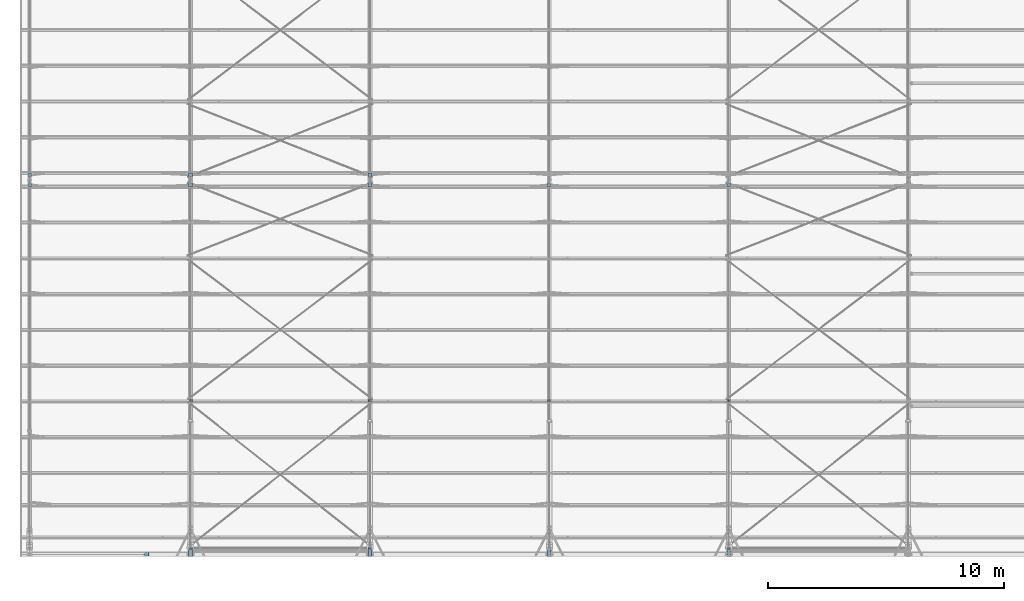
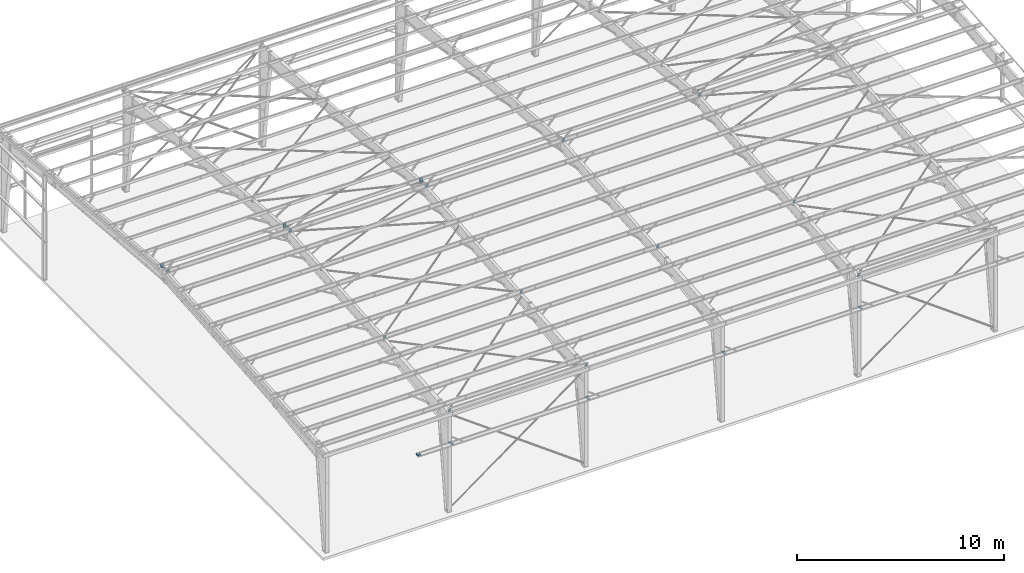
# One storey, part 182 of 185: 20 beams, 20 elements without a shape of their own.
"""IFC2X3 building model written with IfcOpenShell, lengths in millimetres."""

from ifc_helpers import new_model, si_unit, frame, origin_with_axes, place, context, subcontext, project, spatial, faceted_brep, material, type_object, element, aggregate, save


model = new_model("IFC2X3")

# Units and contexts
model_context = context("Model", 3, precision=1e-05, world=origin_with_axes())
body_context = subcontext(model_context, "Body", "Model", "MODEL_VIEW")
ifc_project = project(units=[si_unit("LENGTHUNIT", "METRE", prefix="MILLI"), si_unit("AREAUNIT", "SQUARE_METRE"), si_unit("VOLUMEUNIT", "CUBIC_METRE"), si_unit("MASSUNIT", "GRAM", prefix="KILO"), si_unit("TIMEUNIT", "SECOND"), si_unit("PLANEANGLEUNIT", "RADIAN"), si_unit("SOLIDANGLEUNIT", "STERADIAN"), si_unit("THERMODYNAMICTEMPERATUREUNIT", "DEGREE_CELSIUS"), si_unit("LUMINOUSINTENSITYUNIT", "LUMEN")], contexts=[model_context])

# Site, building, storey
site_placement = place(None, origin_with_axes())
site = spatial("IfcSite", under=ifc_project, at=site_placement, Name="Undefined", CompositionType="ELEMENT")
building_placement = place(site_placement, origin_with_axes())
building = spatial("IfcBuilding", under=site, at=building_placement, Name="Undefined", CompositionType="ELEMENT")
storey_placement = place(building_placement, origin_with_axes())
storey = spatial("IfcBuildingStorey", under=building, at=storey_placement, Name="Undefined", CompositionType="ELEMENT", Elevation=0.0)

# Assembly, beam
assembly_1_placement = place(storey_placement, origin_with_axes())
assembly_1 = element("IfcElementAssembly", 1, at=assembly_1_placement, inside=storey, Name="Steel Assembly", AssemblyPlace="NOTDEFINED", PredefinedType="RIGID_FRAME")
ifc_material = material(Name="STEEL/55")
beam_type_1 = type_object("IfcBeamType", Name="PL1/8\"X5 7/8\"", PredefinedType="NOTDEFINED")
beam_1_placement = place(assembly_1_placement, frame((5470.53000030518, 101.6, 4168.77750003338), z_axis=(0.0, -1.0, 0.0), x_axis=(-1.0, 0.0, 0.0)))
beam_1 = element("IfcBeam", 2, at=beam_1_placement, type_object=beam_type_1, material=ifc_material, Name="UNIVERSAL AC-1 CLIP", ObjectType="PL1/8\"X5 7/8\"", context=body_context, shape_type="Brep", body=[
    faceted_brep([(0.0, -1.58749999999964, -74.6125), (0.0, -1.58749999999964, 74.6125), (0.0, 1.58749999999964, 74.6125), (0.0, 1.58749999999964, -74.6125), (184.149993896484, 1.58749999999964, 74.6125), (184.149993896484, 1.58749999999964, -74.6125), (180.974993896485, -1.58749999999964, -74.6125), (180.974993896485, -1.58749999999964, 74.6125), (184.149993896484, -74.6124969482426, 74.6125), (184.149993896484, -74.6124969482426, -74.6125), (180.974993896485, -74.6124969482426, 74.6125), (180.974993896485, -74.6124969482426, -74.6125)], [[[0, 1, 2, 3]], [[3, 2, 4, 5]], [[1, 0, 6, 7]], [[5, 4, 8, 9]], [[4, 2, 1, 7, 10, 8]], [[7, 6, 11, 10]], [[6, 0, 3, 5, 9, 11]], [[10, 11, 9, 8]]]),
])
aggregate(assembly_1, [beam_1])

assembly_2_placement = place(storey_placement, origin_with_axes())
assembly_2 = element("IfcElementAssembly", 3, at=assembly_2_placement, inside=storey, Name="Steel Assembly", AssemblyPlace="NOTDEFINED", PredefinedType="RIGID_FRAME")
beam_type_2 = type_object("IfcBeamType", Name="FL3/16\"X5\"", PredefinedType="NOTDEFINED")
beam_2_placement = place(assembly_2_placement, frame((30099.0000000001, 6672.1247784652, 6450.49431404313), z_axis=(1.0, 0.0, 0.0), x_axis=(0.0, -0.996545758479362, -0.0830454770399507)))
beam_2 = element("IfcBeam", 4, at=beam_2_placement, type_object=beam_type_2, material=ifc_material, Name="UNIVERSAL AC-1 CLIP", ObjectType="FL3/16\"X5\"", context=body_context, shape_type="Brep", body=[
    faceted_brep([(1.03973434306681e-08, -2.3799999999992, -63.5), (1.03973434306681e-08, -2.3799999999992, 63.5), (-1.0393705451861e-08, 2.38000000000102, 63.5), (-1.0393705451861e-08, 2.38000000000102, -63.5), (69.8499976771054, 2.38000030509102, 63.5), (69.8499976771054, 2.38000030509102, -63.5), (65.0899976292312, -2.37999971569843, -63.5), (65.0899976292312, -2.37999971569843, 63.5), (69.8499958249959, -181.770005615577, 63.5), (69.8499958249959, -181.770005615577, -63.5), (65.0899958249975, -181.770005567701, 63.5), (65.0899958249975, -181.770005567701, -63.5)], [[[0, 1, 2, 3]], [[3, 2, 4, 5]], [[1, 0, 6, 7]], [[5, 4, 8, 9]], [[4, 2, 1, 7, 10, 8]], [[7, 6, 11, 10]], [[6, 0, 3, 5, 9, 11]], [[10, 11, 9, 8]]]),
])
aggregate(assembly_2, [beam_2])

assembly_3_placement = place(storey_placement, origin_with_axes())
assembly_3 = element("IfcElementAssembly", 5, at=assembly_3_placement, inside=storey, Name="Steel Assembly", AssemblyPlace="NOTDEFINED", PredefinedType="RIGID_FRAME")
beam_3_placement = place(assembly_3_placement, frame((22479.0000000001, 6672.1247784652, 6450.49431404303), z_axis=(1.0, 0.0, 0.0), x_axis=(0.0, -0.996545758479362, -0.0830454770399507)))
beam_3 = element("IfcBeam", 6, at=beam_3_placement, type_object=beam_type_2, material=ifc_material, Name="UNIVERSAL AC-1 CLIP", ObjectType="FL3/16\"X5\"", context=body_context, shape_type="Brep", body=[
    faceted_brep([(1.03973434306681e-08, -2.3799999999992, -63.5), (1.03973434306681e-08, -2.3799999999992, 63.5), (-1.0393705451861e-08, 2.38000000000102, 63.5), (-1.0393705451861e-08, 2.38000000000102, -63.5), (69.8499976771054, 2.38000030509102, 63.5), (69.8499976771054, 2.38000030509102, -63.5), (65.0899976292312, -2.37999971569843, -63.5), (65.0899976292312, -2.37999971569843, 63.5), (69.8499958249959, -181.770005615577, 63.5), (69.8499958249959, -181.770005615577, -63.5), (65.0899958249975, -181.770005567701, 63.5), (65.0899958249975, -181.770005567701, -63.5)], [[[0, 1, 2, 3]], [[3, 2, 4, 5]], [[1, 0, 6, 7]], [[5, 4, 8, 9]], [[4, 2, 1, 7, 10, 8]], [[7, 6, 11, 10]], [[6, 0, 3, 5, 9, 11]], [[10, 11, 9, 8]]]),
])
aggregate(assembly_3, [beam_3])

assembly_4_placement = place(storey_placement, origin_with_axes())
assembly_4 = element("IfcElementAssembly", 7, at=assembly_4_placement, inside=storey, Name="Steel Assembly", AssemblyPlace="NOTDEFINED", PredefinedType="RIGID_FRAME")
beam_4_placement = place(assembly_4_placement, frame((14859.0000000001, 6672.1247784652, 6450.49431404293), z_axis=(1.0, 0.0, 0.0), x_axis=(0.0, -0.996545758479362, -0.0830454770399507)))
beam_4 = element("IfcBeam", 8, at=beam_4_placement, type_object=beam_type_2, material=ifc_material, Name="UNIVERSAL AC-1 CLIP", ObjectType="FL3/16\"X5\"", context=body_context, shape_type="Brep", body=[
    faceted_brep([(1.03973434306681e-08, -2.3799999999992, -63.5), (1.03973434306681e-08, -2.3799999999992, 63.5), (-1.0393705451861e-08, 2.38000000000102, 63.5), (-1.0393705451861e-08, 2.38000000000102, -63.5), (69.8499976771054, 2.38000030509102, 63.5), (69.8499976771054, 2.38000030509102, -63.5), (65.0899976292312, -2.37999971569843, -63.5), (65.0899976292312, -2.37999971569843, 63.5), (69.8499958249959, -181.770005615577, 63.5), (69.8499958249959, -181.770005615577, -63.5), (65.0899958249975, -181.770005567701, 63.5), (65.0899958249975, -181.770005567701, -63.5)], [[[0, 1, 2, 3]], [[3, 2, 4, 5]], [[1, 0, 6, 7]], [[5, 4, 8, 9]], [[4, 2, 1, 7, 10, 8]], [[7, 6, 11, 10]], [[6, 0, 3, 5, 9, 11]], [[10, 11, 9, 8]]]),
])
aggregate(assembly_4, [beam_4])

assembly_5_placement = place(storey_placement, origin_with_axes())
assembly_5 = element("IfcElementAssembly", 9, at=assembly_5_placement, inside=storey, Name="Steel Assembly", AssemblyPlace="NOTDEFINED", PredefinedType="RIGID_FRAME")
beam_5_placement = place(assembly_5_placement, frame((7239.00000000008, 6672.1247784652, 6450.49431404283), z_axis=(1.0, 0.0, 0.0), x_axis=(0.0, -0.996545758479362, -0.0830454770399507)))
beam_5 = element("IfcBeam", 10, at=beam_5_placement, type_object=beam_type_2, material=ifc_material, Name="UNIVERSAL AC-1 CLIP", ObjectType="FL3/16\"X5\"", context=body_context, shape_type="Brep", body=[
    faceted_brep([(1.03973434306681e-08, -2.3799999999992, -63.5), (1.03973434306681e-08, -2.3799999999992, 63.5), (-1.0393705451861e-08, 2.38000000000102, 63.5), (-1.0393705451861e-08, 2.38000000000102, -63.5), (69.8499976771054, 2.38000030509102, 63.5), (69.8499976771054, 2.38000030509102, -63.5), (65.0899976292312, -2.37999971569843, -63.5), (65.0899976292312, -2.37999971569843, 63.5), (69.8499958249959, -181.770005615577, 63.5), (69.8499958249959, -181.770005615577, -63.5), (65.0899958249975, -181.770005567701, 63.5), (65.0899958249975, -181.770005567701, -63.5)], [[[0, 1, 2, 3]], [[3, 2, 4, 5]], [[1, 0, 6, 7]], [[5, 4, 8, 9]], [[4, 2, 1, 7, 10, 8]], [[7, 6, 11, 10]], [[6, 0, 3, 5, 9, 11]], [[10, 11, 9, 8]]]),
])
aggregate(assembly_5, [beam_5])

assembly_6_placement = place(storey_placement, origin_with_axes())
assembly_6 = element("IfcElementAssembly", 11, at=assembly_6_placement, inside=storey, Name="Steel Assembly", AssemblyPlace="NOTDEFINED", PredefinedType="RIGID_FRAME")
beam_6_placement = place(assembly_6_placement, frame((7239.0, 389.937689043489, 5926.97872219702), z_axis=(1.0, 0.0, 0.0), x_axis=(0.0, -0.996545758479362, -0.0830454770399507)))
beam_6 = element("IfcBeam", 12, at=beam_6_placement, type_object=beam_type_2, material=ifc_material, Name="UNIVERSAL AC-1 CLIP", ObjectType="FL3/16\"X5\"", context=body_context, shape_type="Brep", body=[
    faceted_brep([(1.03973434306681e-08, -2.3799999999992, -63.5), (1.03973434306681e-08, -2.3799999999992, 63.5), (-1.0393705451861e-08, 2.38000000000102, 63.5), (-1.0393705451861e-08, 2.38000000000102, -63.5), (69.8499976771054, 2.38000030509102, 63.5), (69.8499976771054, 2.38000030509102, -63.5), (65.0899976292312, -2.37999971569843, -63.5), (65.0899976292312, -2.37999971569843, 63.5), (69.8499958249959, -181.770005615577, 63.5), (69.8499958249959, -181.770005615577, -63.5), (65.0899958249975, -181.770005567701, 63.5), (65.0899958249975, -181.770005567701, -63.5)], [[[0, 1, 2, 3]], [[3, 2, 4, 5]], [[1, 0, 6, 7]], [[5, 4, 8, 9]], [[4, 2, 1, 7, 10, 8]], [[7, 6, 11, 10]], [[6, 0, 3, 5, 9, 11]], [[10, 11, 9, 8]]]),
])
aggregate(assembly_6, [beam_6])

assembly_7_placement = place(storey_placement, origin_with_axes())
assembly_7 = element("IfcElementAssembly", 13, at=assembly_7_placement, inside=storey, Name="Steel Assembly", AssemblyPlace="NOTDEFINED", PredefinedType="RIGID_FRAME")
beam_7_placement = place(assembly_7_placement, frame((30099.0, 389.937689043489, 5926.97872219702), z_axis=(1.0, 0.0, 0.0), x_axis=(0.0, -0.996545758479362, -0.0830454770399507)))
beam_7 = element("IfcBeam", 14, at=beam_7_placement, type_object=beam_type_2, material=ifc_material, Name="UNIVERSAL AC-1 CLIP", ObjectType="FL3/16\"X5\"", context=body_context, shape_type="Brep", body=[
    faceted_brep([(1.03973434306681e-08, -2.3799999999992, -63.5), (1.03973434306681e-08, -2.3799999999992, 63.5), (-1.0393705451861e-08, 2.38000000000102, 63.5), (-1.0393705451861e-08, 2.38000000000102, -63.5), (69.8499976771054, 2.38000030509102, 63.5), (69.8499976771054, 2.38000030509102, -63.5), (65.0899976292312, -2.37999971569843, -63.5), (65.0899976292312, -2.37999971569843, 63.5), (69.8499958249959, -181.770005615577, 63.5), (69.8499958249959, -181.770005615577, -63.5), (65.0899958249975, -181.770005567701, 63.5), (65.0899958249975, -181.770005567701, -63.5)], [[[0, 1, 2, 3]], [[3, 2, 4, 5]], [[1, 0, 6, 7]], [[5, 4, 8, 9]], [[4, 2, 1, 7, 10, 8]], [[7, 6, 11, 10]], [[6, 0, 3, 5, 9, 11]], [[10, 11, 9, 8]]]),
])
aggregate(assembly_7, [beam_7])

assembly_8_placement = place(storey_placement, origin_with_axes())
assembly_8 = element("IfcElementAssembly", 15, at=assembly_8_placement, inside=storey, Name="Steel Assembly", AssemblyPlace="NOTDEFINED", PredefinedType="RIGID_FRAME")
beam_8_placement = place(assembly_8_placement, frame((14859.0000000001, 389.937689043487, 5926.9787221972), z_axis=(-1.0, 0.0, 0.0), x_axis=(0.0, -0.996545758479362, -0.0830454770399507)))
beam_8 = element("IfcBeam", 16, at=beam_8_placement, type_object=beam_type_2, material=ifc_material, Name="UNIVERSAL AC-1 CLIP", ObjectType="FL3/16\"X5\"", context=body_context, shape_type="Brep", body=[
    faceted_brep([(1.03973434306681e-08, -2.3799999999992, -63.5), (1.03973434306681e-08, -2.3799999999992, 63.5), (-1.0393705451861e-08, 2.38000000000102, 63.5), (-1.0393705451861e-08, 2.38000000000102, -63.5), (65.0899976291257, 2.37999971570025, 63.5), (65.0899976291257, 2.37999971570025, -63.5), (69.8499976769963, -2.38000030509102, -63.5), (69.8499976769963, -2.38000030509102, 63.5), (65.0899958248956, 181.77000556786, 63.5), (65.0899958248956, 181.77000556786, -63.5), (69.849995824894, 181.770005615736, 63.5), (69.849995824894, 181.770005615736, -63.5)], [[[0, 1, 2, 3]], [[3, 2, 4, 5]], [[1, 0, 6, 7]], [[5, 4, 8, 9]], [[4, 2, 1, 7, 10, 8]], [[7, 6, 11, 10]], [[6, 0, 3, 5, 9, 11]], [[10, 11, 9, 8]]]),
])
aggregate(assembly_8, [beam_8])

assembly_9_placement = place(storey_placement, origin_with_axes())
assembly_9 = element("IfcElementAssembly", 17, at=assembly_9_placement, inside=storey, Name="Steel Assembly", AssemblyPlace="NOTDEFINED", PredefinedType="RIGID_FRAME")
beam_type_3 = type_object("IfcBeamType", Name="FL1/4\"X6\"", PredefinedType="NOTDEFINED")
beam_9_placement = place(assembly_9_placement, frame((7238.99999999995, 15854.0818917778, 7216.45516400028), z_axis=(1.0, 0.0, 0.0), x_axis=(0.0, -0.996545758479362, -0.0830454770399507)))
beam_9 = element("IfcBeam", 18, at=beam_9_placement, type_object=beam_type_3, material=ifc_material, Name="ANTI-ROLL CL 8 OR 9.5", ObjectType="FL1/4\"X6\"", context=body_context, shape_type="Brep", body=[
    faceted_brep([(1.38752511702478e-08, -3.17500000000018, -76.1999999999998), (1.38752511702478e-08, -3.17500000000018, 76.1999999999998), (-1.38788891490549e-08, 3.17499999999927, 76.1999999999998), (-1.38788891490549e-08, 3.17499999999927, -76.1999999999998), (139.699995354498, 3.17500061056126, 76.1999999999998), (139.699995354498, 3.17500061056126, -76.1999999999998), (133.34999539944, -3.17499941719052, -76.1999999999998), (133.34999539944, -3.17499941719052, 76.1999999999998), (139.699996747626, -193.674993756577, 76.1999999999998), (139.699996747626, -193.674993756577, -76.1999999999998), (133.349996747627, -193.674993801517, 76.1999999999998), (133.349996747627, -193.674993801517, -76.1999999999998)], [[[0, 1, 2, 3]], [[3, 2, 4, 5]], [[1, 0, 6, 7]], [[5, 4, 8, 9]], [[4, 2, 1, 7, 10, 8]], [[7, 6, 11, 10]], [[6, 0, 3, 5, 9, 11]], [[10, 11, 9, 8]]]),
])
aggregate(assembly_9, [beam_9])

assembly_10_placement = place(storey_placement, origin_with_axes())
assembly_10 = element("IfcElementAssembly", 19, at=assembly_10_placement, inside=storey, Name="Steel Assembly", AssemblyPlace="NOTDEFINED", PredefinedType="RIGID_FRAME")
beam_10_placement = place(assembly_10_placement, frame((30099.0, 301.625, 4089.4), z_axis=(-1.0, 0.0, 0.0), x_axis=(0.0, 0.0, 1.0)))
beam_10 = element("IfcBeam", 20, at=beam_10_placement, type_object=beam_type_3, material=ifc_material, Name="8 SECONDARY BYPASS", ObjectType="FL1/4\"X6\"", context=body_context, shape_type="Brep", body=[
    faceted_brep([(1.38752511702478e-08, -3.17500000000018, -76.1999999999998), (1.38752511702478e-08, -3.17500000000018, 76.1999999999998), (-1.38788891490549e-08, 3.17499999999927, 76.1999999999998), (-1.38788891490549e-08, 3.17499999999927, -76.1999999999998), (76.1999969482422, 3.17500000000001, 76.1999999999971), (76.1999969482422, 3.17500000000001, -76.1999999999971), (69.8499969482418, -3.17500000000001, -76.1999999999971), (69.8499969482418, -3.17500000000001, 76.1999999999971), (76.1999969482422, -276.224993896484, 76.1999999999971), (76.1999969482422, -276.224993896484, -76.1999999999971), (69.8499969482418, -276.224993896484, 76.1999999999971), (69.8499969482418, -276.224993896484, -76.1999999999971)], [[[0, 1, 2, 3]], [[3, 2, 4, 5]], [[1, 0, 6, 7]], [[5, 4, 8, 9]], [[4, 2, 1, 7, 10, 8]], [[7, 6, 11, 10]], [[6, 0, 3, 5, 9, 11]], [[10, 11, 9, 8]]]),
])
aggregate(assembly_10, [beam_10])

assembly_11_placement = place(storey_placement, origin_with_axes())
assembly_11 = element("IfcElementAssembly", 21, at=assembly_11_placement, inside=storey, Name="Steel Assembly", AssemblyPlace="NOTDEFINED", PredefinedType="RIGID_FRAME")
beam_11_placement = place(assembly_11_placement, frame((22479.0, 301.625, 4089.4), z_axis=(-1.0, 0.0, 0.0), x_axis=(0.0, 0.0, 1.0)))
beam_11 = element("IfcBeam", 22, at=beam_11_placement, type_object=beam_type_3, material=ifc_material, Name="8 SECONDARY BYPASS", ObjectType="FL1/4\"X6\"", context=body_context, shape_type="Brep", body=[
    faceted_brep([(1.38752511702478e-08, -3.17500000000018, -76.1999999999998), (1.38752511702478e-08, -3.17500000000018, 76.1999999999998), (-1.38788891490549e-08, 3.17499999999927, 76.1999999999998), (-1.38788891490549e-08, 3.17499999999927, -76.1999999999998), (76.1999969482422, 3.17500000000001, 76.1999999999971), (76.1999969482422, 3.17500000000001, -76.1999999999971), (69.8499969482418, -3.17500000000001, -76.1999999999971), (69.8499969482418, -3.17500000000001, 76.1999999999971), (76.1999969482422, -276.224993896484, 76.1999999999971), (76.1999969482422, -276.224993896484, -76.1999999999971), (69.8499969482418, -276.224993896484, 76.1999999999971), (69.8499969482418, -276.224993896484, -76.1999999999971)], [[[0, 1, 2, 3]], [[3, 2, 4, 5]], [[1, 0, 6, 7]], [[5, 4, 8, 9]], [[4, 2, 1, 7, 10, 8]], [[7, 6, 11, 10]], [[6, 0, 3, 5, 9, 11]], [[10, 11, 9, 8]]]),
])
aggregate(assembly_11, [beam_11])

assembly_12_placement = place(storey_placement, origin_with_axes())
assembly_12 = element("IfcElementAssembly", 23, at=assembly_12_placement, inside=storey, Name="Steel Assembly", AssemblyPlace="NOTDEFINED", PredefinedType="RIGID_FRAME")
beam_12_placement = place(assembly_12_placement, frame((14859.0, 301.625, 4089.4), z_axis=(-1.0, 0.0, 0.0), x_axis=(0.0, 0.0, 1.0)))
beam_12 = element("IfcBeam", 24, at=beam_12_placement, type_object=beam_type_3, material=ifc_material, Name="8 SECONDARY BYPASS", ObjectType="FL1/4\"X6\"", context=body_context, shape_type="Brep", body=[
    faceted_brep([(1.38752511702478e-08, -3.17500000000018, -76.1999999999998), (1.38752511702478e-08, -3.17500000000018, 76.1999999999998), (-1.38788891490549e-08, 3.17499999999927, 76.1999999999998), (-1.38788891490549e-08, 3.17499999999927, -76.1999999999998), (76.1999969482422, 3.17500000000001, 76.1999999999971), (76.1999969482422, 3.17500000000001, -76.1999999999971), (69.8499969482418, -3.17500000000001, -76.1999999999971), (69.8499969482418, -3.17500000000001, 76.1999999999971), (76.1999969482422, -276.224993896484, 76.1999999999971), (76.1999969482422, -276.224993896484, -76.1999999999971), (69.8499969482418, -276.224993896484, 76.1999999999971), (69.8499969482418, -276.224993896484, -76.1999999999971)], [[[0, 1, 2, 3]], [[3, 2, 4, 5]], [[1, 0, 6, 7]], [[5, 4, 8, 9]], [[4, 2, 1, 7, 10, 8]], [[7, 6, 11, 10]], [[6, 0, 3, 5, 9, 11]], [[10, 11, 9, 8]]]),
])
aggregate(assembly_12, [beam_12])

assembly_13_placement = place(storey_placement, origin_with_axes())
assembly_13 = element("IfcElementAssembly", 25, at=assembly_13_placement, inside=storey, Name="Steel Assembly", AssemblyPlace="NOTDEFINED", PredefinedType="RIGID_FRAME")
beam_13_placement = place(assembly_13_placement, frame((7239.0, 301.625, 4089.4), z_axis=(-1.0, 0.0, 0.0), x_axis=(0.0, 0.0, 1.0)))
beam_13 = element("IfcBeam", 26, at=beam_13_placement, type_object=beam_type_3, material=ifc_material, Name="8 SECONDARY BYPASS", ObjectType="FL1/4\"X6\"", context=body_context, shape_type="Brep", body=[
    faceted_brep([(1.38752511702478e-08, -3.17500000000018, -76.1999999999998), (1.38752511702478e-08, -3.17500000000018, 76.1999999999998), (-1.38788891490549e-08, 3.17499999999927, 76.1999999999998), (-1.38788891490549e-08, 3.17499999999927, -76.1999999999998), (76.1999969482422, 3.17500000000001, 76.1999999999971), (76.1999969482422, 3.17500000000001, -76.1999999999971), (69.8499969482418, -3.17500000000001, -76.1999999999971), (69.8499969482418, -3.17500000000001, 76.1999999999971), (76.1999969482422, -276.224993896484, 76.1999999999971), (76.1999969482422, -276.224993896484, -76.1999999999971), (69.8499969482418, -276.224993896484, 76.1999999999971), (69.8499969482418, -276.224993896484, -76.1999999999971)], [[[0, 1, 2, 3]], [[3, 2, 4, 5]], [[1, 0, 6, 7]], [[5, 4, 8, 9]], [[4, 2, 1, 7, 10, 8]], [[7, 6, 11, 10]], [[6, 0, 3, 5, 9, 11]], [[10, 11, 9, 8]]]),
])
aggregate(assembly_13, [beam_13])

assembly_14_placement = place(storey_placement, origin_with_axes())
assembly_14 = element("IfcElementAssembly", 27, at=assembly_14_placement, inside=storey, Name="Steel Assembly", AssemblyPlace="NOTDEFINED", PredefinedType="RIGID_FRAME")
beam_14_placement = place(assembly_14_placement, frame((30098.9999999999, 15854.0818917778, 7216.45516400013), z_axis=(1.0, 0.0, 0.0), x_axis=(0.0, -0.996545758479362, -0.0830454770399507)))
beam_14 = element("IfcBeam", 28, at=beam_14_placement, type_object=beam_type_3, material=ifc_material, Name="ANTI-ROLL CL 8 OR 9.5", ObjectType="FL1/4\"X6\"", context=body_context, shape_type="Brep", body=[
    faceted_brep([(1.38752511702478e-08, -3.17500000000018, -76.1999999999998), (1.38752511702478e-08, -3.17500000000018, 76.1999999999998), (-1.38788891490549e-08, 3.17499999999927, 76.1999999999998), (-1.38788891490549e-08, 3.17499999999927, -76.1999999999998), (139.699995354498, 3.17500061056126, 76.1999999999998), (139.699995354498, 3.17500061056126, -76.1999999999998), (133.34999539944, -3.17499941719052, -76.1999999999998), (133.34999539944, -3.17499941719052, 76.1999999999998), (139.699996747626, -193.674993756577, 76.1999999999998), (139.699996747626, -193.674993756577, -76.1999999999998), (133.349996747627, -193.674993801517, 76.1999999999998), (133.349996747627, -193.674993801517, -76.1999999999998)], [[[0, 1, 2, 3]], [[3, 2, 4, 5]], [[1, 0, 6, 7]], [[5, 4, 8, 9]], [[4, 2, 1, 7, 10, 8]], [[7, 6, 11, 10]], [[6, 0, 3, 5, 9, 11]], [[10, 11, 9, 8]]]),
])
aggregate(assembly_14, [beam_14])

assembly_15_placement = place(storey_placement, origin_with_axes())
assembly_15 = element("IfcElementAssembly", 29, at=assembly_15_placement, inside=storey, Name="Steel Assembly", AssemblyPlace="NOTDEFINED", PredefinedType="RIGID_FRAME")
beam_15_placement = place(assembly_15_placement, frame((7239.00000000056, 16149.9181081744, 7216.45516396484), z_axis=(-1.0, 0.0, 0.0), x_axis=(0.0, 0.996545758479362, -0.0830454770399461)))
beam_15 = element("IfcBeam", 30, at=beam_15_placement, type_object=beam_type_3, material=ifc_material, Name="ANTI-ROLL CL 8 OR 9.5", ObjectType="FL1/4\"X6\"", context=body_context, shape_type="Brep", body=[
    faceted_brep([(1.38752511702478e-08, -3.17500000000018, -76.1999999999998), (1.38752511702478e-08, -3.17500000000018, 76.1999999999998), (-1.38788891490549e-08, 3.17499999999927, 76.1999999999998), (-1.38788891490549e-08, 3.17499999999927, -76.1999999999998), (139.699995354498, 3.17500061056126, 76.1999999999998), (139.699995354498, 3.17500061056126, -76.1999999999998), (133.34999539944, -3.17499941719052, -76.1999999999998), (133.34999539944, -3.17499941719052, 76.1999999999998), (139.699996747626, -193.674993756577, 76.1999999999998), (139.699996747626, -193.674993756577, -76.1999999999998), (133.349996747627, -193.674993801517, 76.1999999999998), (133.349996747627, -193.674993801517, -76.1999999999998)], [[[0, 1, 2, 3]], [[3, 2, 4, 5]], [[1, 0, 6, 7]], [[5, 4, 8, 9]], [[4, 2, 1, 7, 10, 8]], [[7, 6, 11, 10]], [[6, 0, 3, 5, 9, 11]], [[10, 11, 9, 8]]]),
])
aggregate(assembly_15, [beam_15])

assembly_16_placement = place(storey_placement, origin_with_axes())
assembly_16 = element("IfcElementAssembly", 31, at=assembly_16_placement, inside=storey, Name="Steel Assembly", AssemblyPlace="NOTDEFINED", PredefinedType="RIGID_FRAME")
beam_16_placement = place(assembly_16_placement, frame((406.399999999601, 16149.9181081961, 7216.45516403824), z_axis=(1.0, 0.0, 0.0), x_axis=(0.0, 0.996545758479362, -0.0830454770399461)))
beam_16 = element("IfcBeam", 32, at=beam_16_placement, type_object=beam_type_3, material=ifc_material, Name="ANTI-ROLL CL 8 OR 9.5", ObjectType="FL1/4\"X6\"", context=body_context, shape_type="Brep", body=[
    faceted_brep([(1.38752511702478e-08, -3.17500000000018, -76.1999999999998), (1.38752511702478e-08, -3.17500000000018, 76.1999999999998), (-1.38788891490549e-08, 3.17499999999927, 76.1999999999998), (-1.38788891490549e-08, 3.17499999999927, -76.1999999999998), (133.349995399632, 3.17499941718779, 76.2), (133.349995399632, 3.17499941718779, -76.2), (139.699995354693, -3.17500061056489, -76.2), (139.699995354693, -3.17500061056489, 76.2), (133.349996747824, 193.674993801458, 76.2), (133.349996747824, 193.674993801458, -76.2), (139.699996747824, 193.674993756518, 76.2), (139.699996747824, 193.674993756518, -76.2)], [[[0, 1, 2, 3]], [[3, 2, 4, 5]], [[1, 0, 6, 7]], [[5, 4, 8, 9]], [[4, 2, 1, 7, 10, 8]], [[7, 6, 11, 10]], [[6, 0, 3, 5, 9, 11]], [[10, 11, 9, 8]]]),
])
aggregate(assembly_16, [beam_16])

assembly_17_placement = place(storey_placement, origin_with_axes())
assembly_17 = element("IfcElementAssembly", 33, at=assembly_17_placement, inside=storey, Name="Steel Assembly", AssemblyPlace="NOTDEFINED", PredefinedType="RIGID_FRAME")
beam_17_placement = place(assembly_17_placement, frame((406.400000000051, 15854.0818917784, 7216.45516401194), z_axis=(1.0, 0.0, 0.0), x_axis=(0.0, -0.996545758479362, -0.0830454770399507)))
beam_17 = element("IfcBeam", 34, at=beam_17_placement, type_object=beam_type_3, material=ifc_material, Name="ANTI-ROLL CL 8 OR 9.5", ObjectType="FL1/4\"X6\"", context=body_context, shape_type="Brep", body=[
    faceted_brep([(1.38752511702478e-08, -3.17500000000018, -76.1999999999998), (1.38752511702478e-08, -3.17500000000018, 76.1999999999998), (-1.38788891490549e-08, 3.17499999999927, 76.1999999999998), (-1.38788891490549e-08, 3.17499999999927, -76.1999999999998), (139.699995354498, 3.17500061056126, 76.1999999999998), (139.699995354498, 3.17500061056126, -76.1999999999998), (133.34999539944, -3.17499941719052, -76.1999999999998), (133.34999539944, -3.17499941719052, 76.1999999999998), (139.699996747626, -193.674993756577, 76.1999999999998), (139.699996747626, -193.674993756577, -76.1999999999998), (133.349996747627, -193.674993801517, 76.1999999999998), (133.349996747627, -193.674993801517, -76.1999999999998)], [[[0, 1, 2, 3]], [[3, 2, 4, 5]], [[1, 0, 6, 7]], [[5, 4, 8, 9]], [[4, 2, 1, 7, 10, 8]], [[7, 6, 11, 10]], [[6, 0, 3, 5, 9, 11]], [[10, 11, 9, 8]]]),
])
aggregate(assembly_17, [beam_17])

assembly_18_placement = place(storey_placement, origin_with_axes())
assembly_18 = element("IfcElementAssembly", 35, at=assembly_18_placement, inside=storey, Name="Steel Assembly", AssemblyPlace="NOTDEFINED", PredefinedType="RIGID_FRAME")
beam_18_placement = place(assembly_18_placement, frame((14859.0, 15854.0818917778, 7216.45516400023), z_axis=(1.0, 0.0, 0.0), x_axis=(0.0, -0.996545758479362, -0.0830454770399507)))
beam_18 = element("IfcBeam", 36, at=beam_18_placement, type_object=beam_type_3, material=ifc_material, Name="ANTI-ROLL CL 8 OR 9.5", ObjectType="FL1/4\"X6\"", context=body_context, shape_type="Brep", body=[
    faceted_brep([(1.38752511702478e-08, -3.17500000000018, -76.1999999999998), (1.38752511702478e-08, -3.17500000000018, 76.1999999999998), (-1.38788891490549e-08, 3.17499999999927, 76.1999999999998), (-1.38788891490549e-08, 3.17499999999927, -76.1999999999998), (139.699995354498, 3.17500061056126, 76.1999999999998), (139.699995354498, 3.17500061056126, -76.1999999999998), (133.34999539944, -3.17499941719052, -76.1999999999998), (133.34999539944, -3.17499941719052, 76.1999999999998), (139.699996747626, -193.674993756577, 76.1999999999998), (139.699996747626, -193.674993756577, -76.1999999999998), (133.349996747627, -193.674993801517, 76.1999999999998), (133.349996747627, -193.674993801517, -76.1999999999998)], [[[0, 1, 2, 3]], [[3, 2, 4, 5]], [[1, 0, 6, 7]], [[5, 4, 8, 9]], [[4, 2, 1, 7, 10, 8]], [[7, 6, 11, 10]], [[6, 0, 3, 5, 9, 11]], [[10, 11, 9, 8]]]),
])
aggregate(assembly_18, [beam_18])

assembly_19_placement = place(storey_placement, origin_with_axes())
assembly_19 = element("IfcElementAssembly", 37, at=assembly_19_placement, inside=storey, Name="Steel Assembly", AssemblyPlace="NOTDEFINED", PredefinedType="RIGID_FRAME")
beam_19_placement = place(assembly_19_placement, frame((22479.0, 15854.0818917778, 7216.45516400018), z_axis=(1.0, 0.0, 0.0), x_axis=(0.0, -0.996545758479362, -0.0830454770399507)))
beam_19 = element("IfcBeam", 38, at=beam_19_placement, type_object=beam_type_3, material=ifc_material, Name="ANTI-ROLL CL 8 OR 9.5", ObjectType="FL1/4\"X6\"", context=body_context, shape_type="Brep", body=[
    faceted_brep([(1.38752511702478e-08, -3.17500000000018, -76.1999999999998), (1.38752511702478e-08, -3.17500000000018, 76.1999999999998), (-1.38788891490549e-08, 3.17499999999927, 76.1999999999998), (-1.38788891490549e-08, 3.17499999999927, -76.1999999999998), (139.699995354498, 3.17500061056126, 76.1999999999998), (139.699995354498, 3.17500061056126, -76.1999999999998), (133.34999539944, -3.17499941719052, -76.1999999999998), (133.34999539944, -3.17499941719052, 76.1999999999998), (139.699996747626, -193.674993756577, 76.1999999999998), (139.699996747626, -193.674993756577, -76.1999999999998), (133.349996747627, -193.674993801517, 76.1999999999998), (133.349996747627, -193.674993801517, -76.1999999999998)], [[[0, 1, 2, 3]], [[3, 2, 4, 5]], [[1, 0, 6, 7]], [[5, 4, 8, 9]], [[4, 2, 1, 7, 10, 8]], [[7, 6, 11, 10]], [[6, 0, 3, 5, 9, 11]], [[10, 11, 9, 8]]]),
])
aggregate(assembly_19, [beam_19])

assembly_20_placement = place(storey_placement, origin_with_axes())
assembly_20 = element("IfcElementAssembly", 39, at=assembly_20_placement, inside=storey, Name="Steel Assembly", AssemblyPlace="NOTDEFINED", PredefinedType="RIGID_FRAME")
beam_20_placement = place(assembly_20_placement, frame((14859.0000000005, 16149.9181081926, 7216.45516403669), z_axis=(-1.0, 0.0, 0.0), x_axis=(0.0, 0.996545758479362, -0.0830454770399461)))
beam_20 = element("IfcBeam", 40, at=beam_20_placement, type_object=beam_type_3, material=ifc_material, Name="ANTI-ROLL CL 8 OR 9.5", ObjectType="FL1/4\"X6\"", context=body_context, shape_type="Brep", body=[
    faceted_brep([(1.38752511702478e-08, -3.17500000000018, -76.1999999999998), (1.38752511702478e-08, -3.17500000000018, 76.1999999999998), (-1.38788891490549e-08, 3.17499999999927, 76.1999999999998), (-1.38788891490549e-08, 3.17499999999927, -76.1999999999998), (139.699995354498, 3.17500061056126, 76.1999999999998), (139.699995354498, 3.17500061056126, -76.1999999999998), (133.34999539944, -3.17499941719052, -76.1999999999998), (133.34999539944, -3.17499941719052, 76.1999999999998), (139.699996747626, -193.674993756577, 76.1999999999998), (139.699996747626, -193.674993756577, -76.1999999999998), (133.349996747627, -193.674993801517, 76.1999999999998), (133.349996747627, -193.674993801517, -76.1999999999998)], [[[0, 1, 2, 3]], [[3, 2, 4, 5]], [[1, 0, 6, 7]], [[5, 4, 8, 9]], [[4, 2, 1, 7, 10, 8]], [[7, 6, 11, 10]], [[6, 0, 3, 5, 9, 11]], [[10, 11, 9, 8]]]),
])
aggregate(assembly_20, [beam_20])

save(model, "model.ifc")
